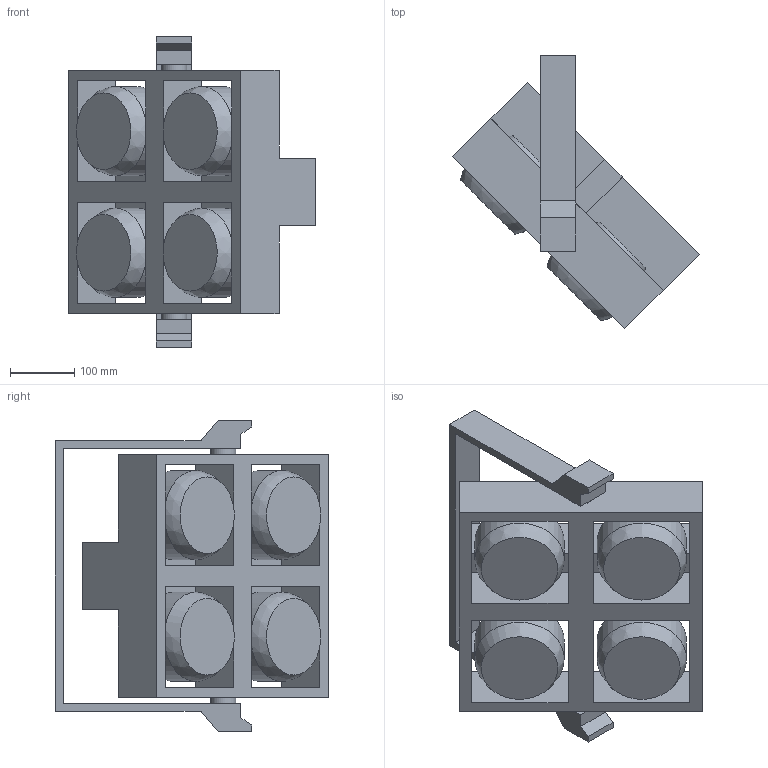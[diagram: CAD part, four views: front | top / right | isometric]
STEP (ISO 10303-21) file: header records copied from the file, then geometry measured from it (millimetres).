
FILE_DESCRIPTION(/* description */ (''),/* implementation_level */ '2;1');
FILE_NAME(/* name */ 'Strike Array 4C_45.stp',/* time_stamp */ '2024-02-07T14:34:16-05:00',/* author */ ('chenry'),/* organization */ (''),/* preprocessor_version */ 'ST-DEVELOPER v20',/* originating_system */ 'Autodesk Inventor 2024',/* authorisation */ '');
FILE_SCHEMA (('AUTOMOTIVE_DESIGN { 1 0 10303 214 3 1 1 }'));
Length unit declared in the file: millimetre
Products named in the file (3): Strike Array 4C; Body; Bracket
Assembly tree (2 placements, depth 2):
  Strike Array 4C
    Body
    Bracket
Bounding box: 384.8 x 426.4 x 486 mm (x, y, z)
Volume: 14465739.1 mm3; surface area: 988593.6 mm2
Topology: 6 solids, 6 shells, 85 faces, 212 edges, 140 vertices
Faces by surface type: plane 69, cylinder 8, bspline 8
Full cylindrical faces by diameter (mm): 39.412 x4, 139.449 x4
Entity records: 2827 total; most frequent: CARTESIAN_POINT 650, ORIENTED_EDGE 424, DIRECTION 416, EDGE_CURVE 212, LINE 172, VECTOR 172, VERTEX_POINT 140, AXIS2_PLACEMENT_3D 122
